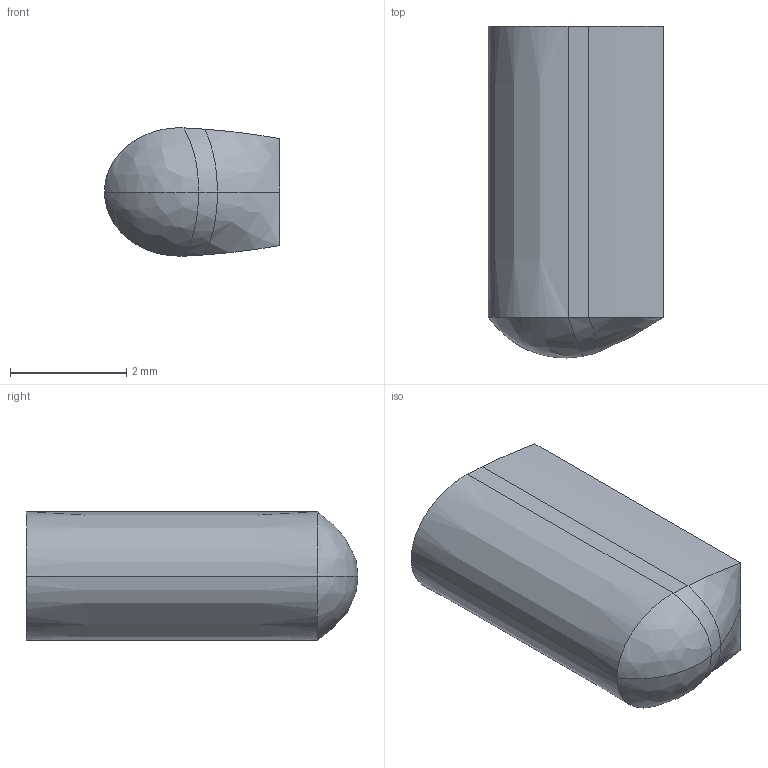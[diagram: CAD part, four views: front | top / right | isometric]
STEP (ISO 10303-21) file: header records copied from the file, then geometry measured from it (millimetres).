
FILE_DESCRIPTION((''),'2;1');
FILE_NAME('DE10-16','2004-03-24T',('tmeister'),(''),'PRO/ENGINEER BY PARAMETRIC TECHNOLOGY CORPORATION, 2002390','PRO/ENGINEER BY PARAMETRIC TECHNOLOGY CORPORATION, 2002390','');
FILE_SCHEMA(('CONFIG_CONTROL_DESIGN'));
Length unit declared in the file: millimetre
Products named in the file (1): DE10-16
Bounding box: 3.01 x 5.7 x 2.2 mm (x, y, z)
Surface area: 52.5 mm2 (no closed solid volume)
Topology: 0 solids, 1 shells, 13 faces, 31 edges, 17 vertices
Faces by surface type: bspline 6, plane 3, cylinder 2, extrusion 2
Entity records: 552 total; most frequent: CARTESIAN_POINT 271, ORIENTED_EDGE 51, DIRECTION 32, EDGE_CURVE 29, VERTEX_POINT 17, B_SPLINE_CURVE_WITH_KNOTS 15, VECTOR 14, EDGE_LOOP 13
